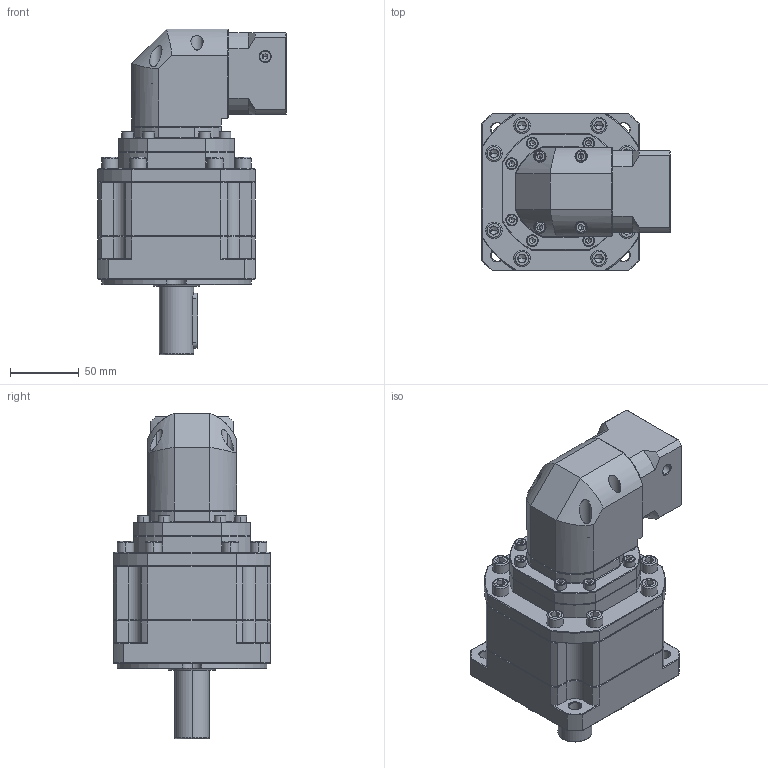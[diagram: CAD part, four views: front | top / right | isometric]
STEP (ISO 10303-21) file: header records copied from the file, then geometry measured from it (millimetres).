
FILE_DESCRIPTION (( 'STEP AP214' ), '1' );
FILE_NAME ('ZBR115A-D25-L3-P2-14-50-70-M4.step', '2023-08-26T14:05:22', ( '' ), ( '' ), 'SwSTEP 2.0', 'SolidWorks 2016', '' );
FILE_SCHEMA (( 'AUTOMOTIVE_DESIGN' ));
Length unit declared in the file: millimetre
Products named in the file (1): ZBR115A-D25-L3-P2-14-50-70-M4
Bounding box: 137.7 x 115 x 237.5 mm (x, y, z)
Volume: 1551226.4 mm3; surface area: 144609.2 mm2
Topology: 6 solids, 6 shells, 2628 faces, 6896 edges, 4388 vertices
Faces by surface type: plane 1299, cylinder 477, bspline 455, cone 389, torus 8
Entity records: 134445 total; most frequent: CARTESIAN_POINT 44418, ORIENTED_EDGE 13668, DIRECTION 11076, EDGE_CURVE 6834, VERTEX_POINT 4388, VECTOR 4344, LINE 4344, AXIS2_PLACEMENT_3D 3366
